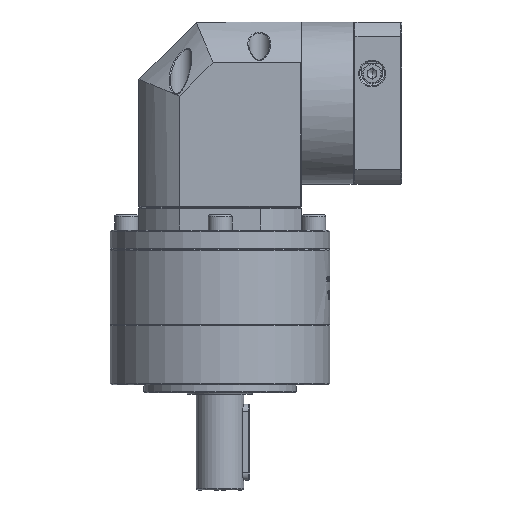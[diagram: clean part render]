
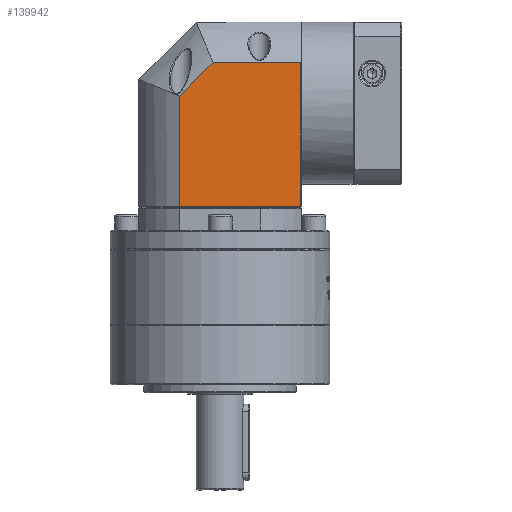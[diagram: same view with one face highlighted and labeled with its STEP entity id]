
A CAD part, front view. The second image highlights one B-rep face of the part: STEP entity #139942.
In plain terms, the highlighted planar face has unit normal (0, -1, 0).
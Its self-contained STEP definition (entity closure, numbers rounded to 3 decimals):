
#1252 = CARTESIAN_POINT ( 'NONE',  ( 185.449, -3.573, 79.015 ) ) ;
#3142 = LINE ( 'NONE', #97058, #18969 ) ;
#3680 = LINE ( 'NONE', #1252, #153648 ) ;
#11605 = PLANE ( 'NONE',  #147592 ) ;
#12242 = CARTESIAN_POINT ( 'NONE',  ( 184.949, -3.573, 3.802 ) ) ;
#13470 = CARTESIAN_POINT ( 'NONE',  ( 185.449, -3.573, 100.302 ) ) ;
#16543 = CARTESIAN_POINT ( 'NONE',  ( 185.449, -3.573, 3.802 ) ) ;
#18969 = VECTOR ( 'NONE', #168326, 1000. ) ;
#23019 = CARTESIAN_POINT ( 'NONE',  ( 184.949, -3.573, 100.302 ) ) ;
#30118 = VERTEX_POINT ( 'NONE', #12242 ) ;
#40160 = DIRECTION ( 'NONE',  ( -1., 0., 0. ) ) ;
#43210 = VERTEX_POINT ( 'NONE', #62449 ) ;
#44569 = LINE ( 'NONE', #16543, #180926 ) ;
#47551 = FACE_OUTER_BOUND ( 'NONE', #75388, .T. ) ;
#50374 = EDGE_CURVE ( 'NONE', #133897, #73412, #3680, .T. ) ;
#52842 = ORIENTED_EDGE ( 'NONE', *, *, #54695, .T. ) ;
#54695 = EDGE_CURVE ( 'NONE', #43210, #30118, #44569, .T. ) ;
#55349 = DIRECTION ( 'NONE',  ( 0., 0., -1. ) ) ;
#57176 = CARTESIAN_POINT ( 'NONE',  ( 139.266, -3.573, 79.015 ) ) ;
#57478 = LINE ( 'NONE', #23019, #166675 ) ;
#61325 = CARTESIAN_POINT ( 'NONE',  ( 121.735, -3.573, 61.484 ) ) ;
#62449 = CARTESIAN_POINT ( 'NONE',  ( 121.735, -3.573, 3.802 ) ) ;
#65046 = EDGE_CURVE ( 'NONE', #73412, #30118, #57478, .T. ) ;
#68987 = ORIENTED_EDGE ( 'NONE', *, *, #107796, .F. ) ;
#73412 = VERTEX_POINT ( 'NONE', #99994 ) ;
#74867 = DIRECTION ( 'NONE',  ( 1., 0., 0. ) ) ;
#75388 = EDGE_LOOP ( 'NONE', ( #52842, #146540, #159007, #157001, #68987 ) ) ;
#87734 = LINE ( 'NONE', #61325, #160515 ) ;
#97058 = CARTESIAN_POINT ( 'NONE',  ( 121.735, -3.573, 100.302 ) ) ;
#99994 = CARTESIAN_POINT ( 'NONE',  ( 184.949, -3.573, 79.015 ) ) ;
#102773 = DIRECTION ( 'NONE',  ( 1., 0., 0. ) ) ;
#105107 = DIRECTION ( 'NONE',  ( 0.707, 0., 0.707 ) ) ;
#107796 = EDGE_CURVE ( 'NONE', #43210, #175232, #3142, .T. ) ;
#124956 = EDGE_CURVE ( 'NONE', #175232, #133897, #87734, .T. ) ;
#133897 = VERTEX_POINT ( 'NONE', #57176 ) ;
#139942 = ADVANCED_FACE ( 'NONE', ( #47551 ), #11605, .F. ) ;
#144133 = CARTESIAN_POINT ( 'NONE',  ( 121.735, -3.573, 61.484 ) ) ;
#146540 = ORIENTED_EDGE ( 'NONE', *, *, #65046, .F. ) ;
#147592 = AXIS2_PLACEMENT_3D ( 'NONE', #13470, #158892, #40160 ) ;
#153648 = VECTOR ( 'NONE', #102773, 1000. ) ;
#157001 = ORIENTED_EDGE ( 'NONE', *, *, #124956, .F. ) ;
#158892 = DIRECTION ( 'NONE',  ( 0., 1., 0. ) ) ;
#159007 = ORIENTED_EDGE ( 'NONE', *, *, #50374, .F. ) ;
#160515 = VECTOR ( 'NONE', #105107, 1000. ) ;
#166675 = VECTOR ( 'NONE', #55349, 1000. ) ;
#168326 = DIRECTION ( 'NONE',  ( 0., 0., 1. ) ) ;
#175232 = VERTEX_POINT ( 'NONE', #144133 ) ;
#180926 = VECTOR ( 'NONE', #74867, 1000. ) ;
